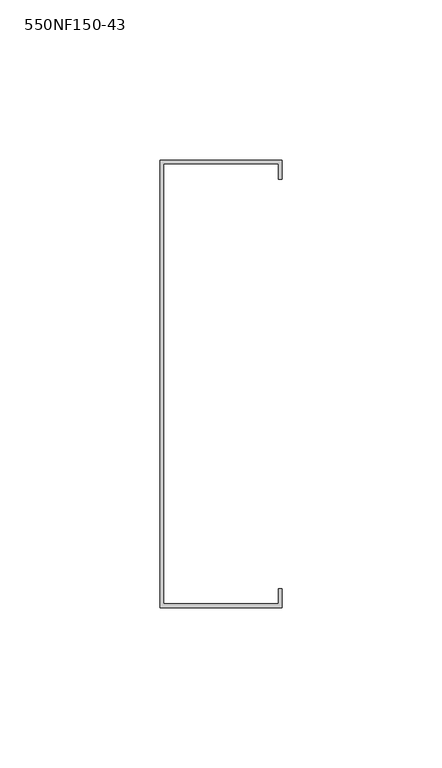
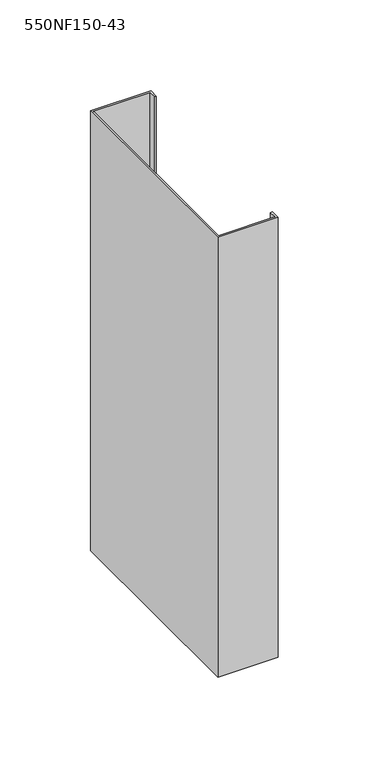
"""IFC4 building model written with IfcOpenShell, lengths in millimetres: column geometry, BIMSF-SSMA-S-Column : 550NF150-43."""

from ifc_helpers import new_model, si_unit, frame, origin, place, context, project, spatial, polyline, outline, extrude, source, transform, mapped, element, save


def column_550nf150_43_0c05c255(model_context):
    return source(origin(), model_context, "Body", "SweptSolid", [
        extrude(outline(polyline([(-11.9977877, -80.5871249), (-11.9977877, 59.1128751), (26.1022123, 59.1128751), (26.1022123, 53.1879908), (24.952528, 53.1879908), (24.952528, 57.9631908), (-10.8481035, 57.9631908), (-10.8481035, -79.4374407), (24.952528, -79.4374407), (24.952528, -74.6622407), (26.1022123, -74.6622407), (26.1022123, -80.5871249), (-11.9977877, -80.5871249)])), frame((0.0, 0.0, 5525.3929688), z_axis=(0.0, 0.0, 1.0), x_axis=(1.0, 0.0, 0.0)), (0.0, 0.0, 1.0), 295.0427909),
    ])


if __name__ == "__main__":
    model = new_model("IFC4")
    model_context = context("Model", 3, world=origin())
    ifc_project = project(units=[si_unit("LENGTHUNIT", "METRE", prefix="MILLI")], contexts=[model_context])
    site = spatial("IfcSite", under=ifc_project)
    building = spatial("IfcBuilding", under=site)
    placement = place(None, origin())
    column_550nf150_43_shape = column_550nf150_43_0c05c255(model_context)
    element("IfcColumn", 1, ObjectType="BIMSF-SSMA-S-Column : 550NF150-43", at=placement, inside=building, context=model_context, shape_type="MappedRepresentation", body=[
        mapped(column_550nf150_43_shape, transform((0.0, 0.0, 0.0), x_axis=(1.0, 0.0, 0.0), y_axis=(0.0, 1.0, 0.0), z_axis=(0.0, 0.0, 1.0))),
    ])
    save(model, "model.ifc")
